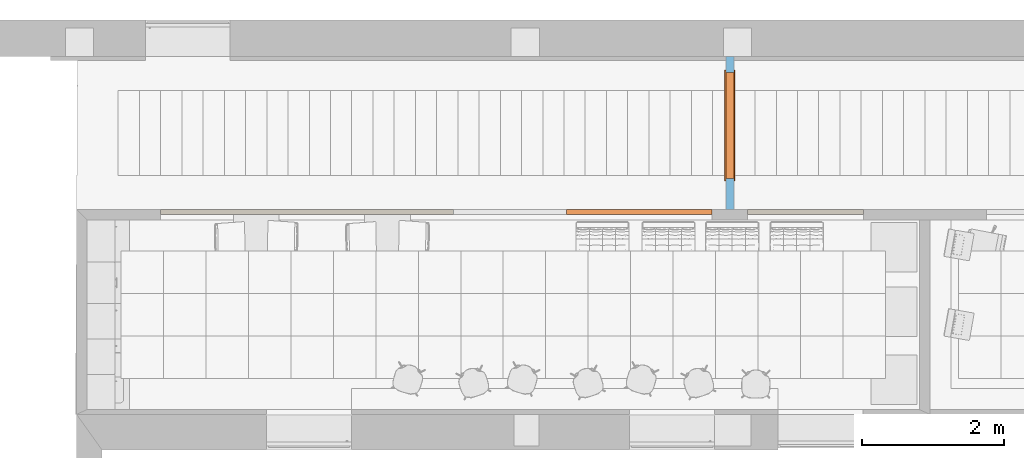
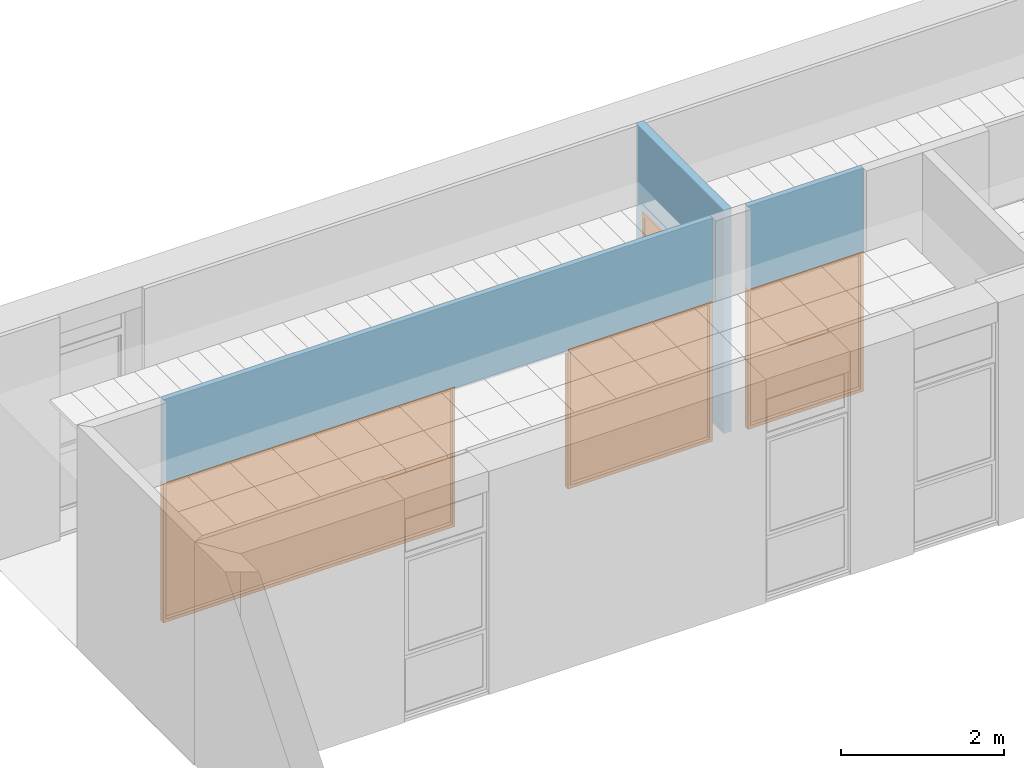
# One storey, part 55 of 68: 4 proxies, 5 openings, plus 3 elements that do not belong to this part.
"""IFC2X3 building model written with IfcOpenShell, lengths in millimetres."""

from ifc_helpers import new_model, entity, si_unit, converted_unit, derived_unit, money_unit, direction, frame, origin_with_axes, origin_2d_with_axis, place, context, subcontext, project, spatial, polyline, rectangle, outline, extrude, faceted_brep, material, layer, layer_set, layer_usage, type_object, element, fill, save


model = new_model("IFC2X3")

# Units and contexts
model_context = context("Model", 3, precision=0.01, world=origin_with_axes(), true_north=direction((0.0, 1.0)))
body_context = subcontext(model_context, "Body", "Model", "MODEL_VIEW")
ifc_project = project(units=[si_unit("LENGTHUNIT", "METRE", prefix="MILLI"), si_unit("AREAUNIT", "SQUARE_METRE"), si_unit("VOLUMEUNIT", "CUBIC_METRE"), converted_unit("PLANEANGLEUNIT", "DEGREE", entity("IfcPlaneAngleMeasure", 0.0174532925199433), si_unit("PLANEANGLEUNIT", "RADIAN"), dimensions=[0, 0, 0, 0, 0, 0, 0]), money_unit("USD"), converted_unit("TIMEUNIT", "Year", entity("IfcTimeMeasure", 31557600.0), si_unit("TIMEUNIT", "SECOND"), dimensions=[0, 0, 1, 0, 0, 0, 0]), si_unit("MASSUNIT", "GRAM", prefix="KILO"), si_unit("THERMODYNAMICTEMPERATUREUNIT", "DEGREE_CELSIUS"), si_unit("LUMINOUSINTENSITYUNIT", "LUMEN"), si_unit("ENERGYUNIT", "JOULE", prefix="MEGA"), derived_unit("THERMALCONDUCTANCEUNIT", [(si_unit("POWERUNIT", "WATT"), 1), (si_unit("LENGTHUNIT", "METRE"), -1), (si_unit("THERMODYNAMICTEMPERATUREUNIT", "KELVIN"), -1)]), derived_unit("SPECIFICHEATCAPACITYUNIT", [(si_unit("ENERGYUNIT", "JOULE"), 1), (si_unit("MASSUNIT", "GRAM", prefix="KILO"), -1), (si_unit("THERMODYNAMICTEMPERATUREUNIT", "KELVIN"), -1)]), derived_unit("MASSDENSITYUNIT", [(si_unit("MASSUNIT", "GRAM", prefix="KILO"), 1), (si_unit("VOLUMEUNIT", "CUBIC_METRE"), -1)])], contexts=[model_context])

# Site, building, storey
site_placement = place(None, origin_with_axes())
site = spatial("IfcSite", under=ifc_project, at=site_placement, Name="Sitio", CompositionType="ELEMENT")
building_placement = place(site_placement, origin_with_axes())
building = spatial("IfcBuilding", under=site, at=building_placement, Name="Construcción", CompositionType="ELEMENT")
storey_placement = place(building_placement, origin_with_axes())
storey = spatial("IfcBuildingStorey", under=building, at=storey_placement, Name="PLANTA 1ª", CompositionType="ELEMENT", Elevation=0.0)

# Wall, openings, proxies
ifc_material_1 = material(Name="Panel de Yeso Laminado")
ifc_layer_1 = layer(ifc_material_1, 5.0, ventilated="UNKNOWN")
ifc_material_2 = material(Name="ARQ_AI033_Aillament_Llana_De_Roca")
ifc_layer_2 = layer(ifc_material_2, 60.0, ventilated="UNKNOWN")
ifc_layer_3 = layer(ifc_material_1, 5.0, ventilated="UNKNOWN")
ifc_layer_set_1 = layer_set([ifc_layer_1, ifc_layer_2, ifc_layer_3], Name="CR- MAMPARA")
ifc_layer_usage_1 = layer_usage(ifc_layer_set_1, "AXIS2", "POSITIVE", 0.0)
wall_type_1 = type_object("IfcWallType", Name="CR- MAMPARA 70", PredefinedType="NOTDEFINED")
wall_1_placement = place(storey_placement, frame((-19071.10900491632, 1700.853055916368, 0.0), z_axis=(0.0, 0.0, 1.0), x_axis=(-1.0, 0.0, 0.0)))
wall_1 = element("IfcWallStandardCase", 1, at=wall_1_placement, inside=storey, type_object=wall_type_1, material=ifc_layer_usage_1, Name="MS-214", context=body_context, shape_type="SweptSolid", body=[
    extrude(outline(polyline([(0.0, 0.0), (7792.385667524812, 0.0), (7792.385667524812, 70.00000000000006), (0.0, 70.00000000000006), (0.0, 0.0)])), origin_with_axes(), (0.0, 0.0, 1.0), 3350.0),
])
opening_1_placement = place(wall_1_placement, frame((1026.534629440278, 0.0, 0.0), z_axis=(0.0, 0.0, 1.0), x_axis=(1.0, 0.0, 0.0)))
opening_1 = element("IfcOpeningElement", 2, at=opening_1_placement, cuts=wall_1, Name="M-04", context=body_context, shape_type="SweptSolid", body=[
    extrude(rectangle(XDim=2053.086487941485, YDim=2100.0, at=origin_2d_with_axis()), frame((0.0, -69.99999999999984, 1050.0), z_axis=(0.0, 1.0, 0.0), x_axis=(-1.0, 0.0, 0.0)), (0.0, 0.0, 1.0), 210.0),
])
opening_2_placement = place(wall_1_placement, frame((5722.731770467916, 0.0, 0.0), z_axis=(0.0, 0.0, 1.0), x_axis=(1.0, 0.0, 0.0)))
opening_2 = element("IfcOpeningElement", 3, at=opening_2_placement, cuts=wall_1, Name="M-03", context=body_context, shape_type="SweptSolid", body=[
    extrude(rectangle(XDim=4139.307794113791, YDim=2100.0, at=origin_2d_with_axis()), frame((0.0, -69.99999999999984, 1050.0), z_axis=(0.0, 1.0, 0.0), x_axis=(-1.0, 0.0, 0.0)), (0.0, 0.0, 1.0), 210.0),
])
opening_3_placement = place(wall_1_placement, frame((2853.077873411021, 0.0, 0.0), z_axis=(0.0, 0.0, 1.0), x_axis=(1.0, 0.0, 0.0)))
element("IfcOpeningElement", 4, at=opening_3_placement, cuts=wall_1, Name="PM-4", context=body_context, shape_type="SweptSolid", body=[
    extrude(rectangle(XDim=1600.000000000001, YDim=2050.0, at=origin_2d_with_axis()), frame((0.0, -69.99999999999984, 1025.0), z_axis=(0.0, 1.0, 0.0), x_axis=(1.0, 0.0, 0.0)), (0.0, 0.0, 1.0), 210.0),
])
building_element_proxy_type_1 = type_object("IfcBuildingElementProxyType", Name="Ventana Escaparate 27", PredefinedType="NOTDEFINED")
proxy_1_placement = place(opening_1_placement, frame((1026.543243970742, 0.0, 0.0), z_axis=(0.0, 0.0, 1.0), x_axis=(-1.0, 0.0, 0.0)))
proxy_1 = element("IfcBuildingElementProxy", 5, at=proxy_1_placement, inside=storey, type_object=building_element_proxy_type_1, Name="M-04", context=body_context, shape_type="Brep", body=[
    faceted_brep([(0.0, 0.0, 2060.0), (0.0, 0.0, 50.0), (0.0, -69.99999999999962, 49.99999999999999), (0.0, -69.99999999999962, 2060.0), (39.99999999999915, 0.0, 2060.0), (39.99999999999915, 0.0, 50.0), (39.99999999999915, -69.99999999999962, 49.99999999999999), (39.99999999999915, -69.99999999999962, 2060.0)], [[[0, 1, 2, 3]], [[0, 4, 5, 1]], [[1, 5, 6, 2]], [[3, 2, 6, 7]], [[4, 0, 3, 7]], [[5, 4, 7, 6]]]),
    faceted_brep([(2053.086487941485, 0.0, 50.0), (2053.086487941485, 0.0, 2060.0), (2053.086487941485, -70.00000000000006, 2060.0), (2053.086487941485, -70.00000000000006, 49.99999999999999), (2013.086487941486, 0.0, 50.0), (2013.086487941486, 0.0, 2060.0), (2013.086487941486, -70.00000000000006, 2060.0), (2013.086487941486, -70.00000000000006, 49.99999999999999)], [[[0, 1, 2, 3]], [[0, 4, 5, 1]], [[1, 5, 6, 2]], [[3, 2, 6, 7]], [[4, 0, 3, 7]], [[5, 4, 7, 6]]]),
    faceted_brep([(2053.086487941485, 0.0, 2100.0), (0.0, 0.0, 2100.0), (0.0, -69.99999999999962, 2100.0), (2053.086487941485, -70.00000000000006, 2100.0), (2053.086487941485, 0.0, 2060.0), (2013.086487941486, 0.0, 2060.0), (39.99999999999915, 0.0, 2060.0), (0.0, 0.0, 2060.0), (0.0, -69.99999999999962, 2060.0), (39.99999999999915, -69.99999999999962, 2060.0), (2013.086487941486, -70.00000000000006, 2060.0), (2053.086487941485, -70.00000000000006, 2060.0)], [[[0, 1, 2, 3]], [[0, 4, 5, 6, 7, 1]], [[1, 7, 8, 2]], [[3, 2, 8, 9, 10, 11]], [[4, 0, 3, 11]], [[5, 4, 11, 10]], [[6, 5, 10, 9]], [[7, 6, 9, 8]]]),
    faceted_brep([(2053.086487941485, 0.0, 50.0), (2013.086487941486, 0.0, 50.0), (2013.086487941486, -70.00000000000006, 49.99999999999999), (2053.086487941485, -70.00000000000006, 49.99999999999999), (2053.086487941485, 0.0, 0.0), (0.0, 0.0, 0.0), (0.0, 0.0, 50.0), (39.99999999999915, 0.0, 50.0), (39.99999999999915, -69.99999999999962, 49.99999999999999), (0.0, -69.99999999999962, 49.99999999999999), (0.0, -69.99999999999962, 0.0), (2053.086487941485, -70.00000000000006, 0.0)], [[[0, 1, 2, 3]], [[0, 4, 5, 6, 7, 1]], [[1, 7, 8, 2]], [[3, 2, 8, 9, 10, 11]], [[4, 0, 3, 11]], [[5, 4, 11, 10]], [[6, 5, 10, 9]], [[7, 6, 9, 8]]]),
    faceted_brep([(39.99999999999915, -9.999999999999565, 50.0), (2013.086487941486, -10.00000000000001, 50.0), (2013.086487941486, -20.00000000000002, 50.0), (39.99999999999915, -19.99999999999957, 50.0), (39.99999999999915, -9.999999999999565, 2060.0), (2013.086487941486, -10.00000000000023, 2060.0), (2013.086487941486, -20.00000000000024, 2060.0), (39.99999999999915, -19.99999999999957, 2060.0)], [[[0, 1, 2, 3]], [[0, 4, 5, 1]], [[1, 5, 6, 2]], [[3, 2, 6, 7]], [[4, 0, 3, 7]], [[5, 4, 7, 6]]]),
])
fill(opening_1, proxy_1)
proxy_2_placement = place(opening_2_placement, frame((2069.653897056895, 0.0, 0.0), z_axis=(0.0, 0.0, 1.0), x_axis=(-1.0, 0.0, 0.0)))
proxy_2 = element("IfcBuildingElementProxy", 6, at=proxy_2_placement, inside=storey, type_object=building_element_proxy_type_1, Name="M-03", context=body_context, shape_type="Brep", body=[
    faceted_brep([(0.0, 0.0, 2060.0), (0.0, 0.0, 50.0), (0.0, -69.99999999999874, 49.99999999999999), (0.0, -69.99999999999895, 2060.0), (39.99999999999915, 0.0, 2060.0), (39.99999999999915, 0.0, 50.0), (39.99999999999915, -69.99999999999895, 49.99999999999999), (39.99999999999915, -69.99999999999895, 2060.0)], [[[0, 1, 2, 3]], [[0, 4, 5, 1]], [[1, 5, 6, 2]], [[3, 2, 6, 7]], [[4, 0, 3, 7]], [[5, 4, 7, 6]]]),
    faceted_brep([(4139.307794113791, 0.0, 50.0), (4139.307794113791, 0.0, 2060.0), (4139.307794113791, -70.00000000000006, 2060.0), (4139.307794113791, -69.99999999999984, 49.99999999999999), (4099.307794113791, 0.0, 50.0), (4099.307794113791, 0.0, 2060.0), (4099.307794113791, -70.00000000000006, 2060.0), (4099.307794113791, -69.99999999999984, 49.99999999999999)], [[[0, 1, 2, 3]], [[0, 4, 5, 1]], [[1, 5, 6, 2]], [[3, 2, 6, 7]], [[4, 0, 3, 7]], [[5, 4, 7, 6]]]),
    faceted_brep([(4139.307794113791, 0.0, 2100.0), (0.0, 0.0, 2100.0), (0.0, -69.99999999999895, 2100.0), (4139.307794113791, -70.00000000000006, 2100.0), (4139.307794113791, 0.0, 2060.0), (4099.307794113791, 0.0, 2060.0), (39.99999999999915, 0.0, 2060.0), (0.0, 0.0, 2060.0), (0.0, -69.99999999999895, 2060.0), (39.99999999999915, -69.99999999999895, 2060.0), (4099.307794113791, -70.00000000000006, 2060.0), (4139.307794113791, -70.00000000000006, 2060.0)], [[[0, 1, 2, 3]], [[0, 4, 5, 6, 7, 1]], [[1, 7, 8, 2]], [[3, 2, 8, 9, 10, 11]], [[4, 0, 3, 11]], [[5, 4, 11, 10]], [[6, 5, 10, 9]], [[7, 6, 9, 8]]]),
    faceted_brep([(4139.307794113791, 0.0, 50.0), (4099.307794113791, 0.0, 50.0), (4099.307794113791, -69.99999999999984, 49.99999999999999), (4139.307794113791, -69.99999999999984, 49.99999999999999), (4139.307794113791, 0.0, 0.0), (0.0, 0.0, 0.0), (0.0, 0.0, 50.0), (39.99999999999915, 0.0, 50.0), (39.99999999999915, -69.99999999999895, 49.99999999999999), (0.0, -69.99999999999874, 49.99999999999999), (0.0, -69.99999999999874, 0.0), (4139.307794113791, -69.99999999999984, 0.0)], [[[0, 1, 2, 3]], [[0, 4, 5, 6, 7, 1]], [[1, 7, 8, 2]], [[3, 2, 8, 9, 10, 11]], [[4, 0, 3, 11]], [[5, 4, 11, 10]], [[6, 5, 10, 9]], [[7, 6, 9, 8]]]),
    faceted_brep([(39.99999999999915, -9.999999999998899, 50.0), (4099.307794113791, -9.999999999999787, 50.0), (4099.307794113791, -19.99999999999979, 50.0), (39.99999999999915, -19.99999999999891, 50.0), (39.99999999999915, -9.999999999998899, 2060.0), (4099.307794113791, -10.00000000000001, 2060.0), (4099.307794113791, -20.00000000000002, 2060.0), (39.99999999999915, -19.99999999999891, 2060.0)], [[[0, 1, 2, 3]], [[0, 4, 5, 1]], [[1, 5, 6, 2]], [[3, 2, 6, 7]], [[4, 0, 3, 7]], [[5, 4, 7, 6]]]),
])
fill(opening_2, proxy_2)

# Wall, opening, proxy
ifc_layer_usage_2 = layer_usage(ifc_layer_set_1, "AXIS2", "POSITIVE", 0.0)
wall_2_placement = place(storey_placement, frame((-16930.05268016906, 1700.853055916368, 0.0), z_axis=(0.0, 0.0, 1.0), x_axis=(-1.0, 0.0, 0.0)))
wall_2 = element("IfcWallStandardCase", 7, at=wall_2_placement, inside=storey, type_object=wall_type_1, material=ifc_layer_usage_2, Name="MS-214", context=body_context, shape_type="SweptSolid", body=[
    extrude(outline(polyline([(0.0, 0.0), (1640.624539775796, 0.0), (1640.624539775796, 70.00000000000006), (0.0, 70.00000000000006), (0.0, 0.0)])), origin_with_axes(), (0.0, 0.0, 1.0), 3350.0),
])
opening_4_placement = place(wall_2_placement, frame((820.3122698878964, 0.0, 0.0), z_axis=(0.0, 0.0, 1.0), x_axis=(1.0, 0.0, 0.0)))
opening_4 = element("IfcOpeningElement", 8, at=opening_4_placement, cuts=wall_2, Name="M-05", context=body_context, shape_type="SweptSolid", body=[
    extrude(rectangle(XDim=1640.624539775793, YDim=2100.0, at=origin_2d_with_axis()), frame((0.0, -69.99999999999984, 1050.0), z_axis=(0.0, 1.0, 0.0), x_axis=(-1.0, 0.0, 0.0)), (0.0, 0.0, 1.0), 210.0),
])
proxy_3_placement = place(opening_4_placement, frame((820.3122698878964, 0.0, 0.0), z_axis=(0.0, 0.0, 1.0), x_axis=(-1.0, 0.0, 0.0)))
proxy_3 = element("IfcBuildingElementProxy", 9, at=proxy_3_placement, inside=storey, type_object=building_element_proxy_type_1, Name="M-05", context=body_context, shape_type="Brep", body=[
    faceted_brep([(0.0, 0.0, 2060.0), (0.0, 0.0, 50.0), (0.0, -69.99999999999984, 49.99999999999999), (0.0, -69.99999999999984, 2060.0), (39.99999999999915, 0.0, 2060.0), (39.99999999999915, 0.0, 50.0), (39.99999999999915, -69.99999999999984, 49.99999999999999), (39.99999999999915, -69.99999999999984, 2060.0)], [[[0, 1, 2, 3]], [[0, 4, 5, 1]], [[1, 5, 6, 2]], [[3, 2, 6, 7]], [[4, 0, 3, 7]], [[5, 4, 7, 6]]]),
    faceted_brep([(1640.624539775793, 0.0, 50.0), (1640.624539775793, 0.0, 2060.0), (1640.624539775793, -70.00000000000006, 2060.0), (1640.624539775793, -70.00000000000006, 49.99999999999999), (1600.624539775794, 0.0, 50.0), (1600.624539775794, 0.0, 2060.0), (1600.624539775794, -70.00000000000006, 2060.0), (1600.624539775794, -70.00000000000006, 49.99999999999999)], [[[0, 1, 2, 3]], [[0, 4, 5, 1]], [[1, 5, 6, 2]], [[3, 2, 6, 7]], [[4, 0, 3, 7]], [[5, 4, 7, 6]]]),
    faceted_brep([(1640.624539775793, 0.0, 2100.0), (0.0, 0.0, 2100.0), (0.0, -69.99999999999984, 2100.0), (1640.624539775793, -70.00000000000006, 2100.0), (1640.624539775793, 0.0, 2060.0), (1600.624539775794, 0.0, 2060.0), (39.99999999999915, 0.0, 2060.0), (0.0, 0.0, 2060.0), (0.0, -69.99999999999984, 2060.0), (39.99999999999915, -69.99999999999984, 2060.0), (1600.624539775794, -70.00000000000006, 2060.0), (1640.624539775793, -70.00000000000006, 2060.0)], [[[0, 1, 2, 3]], [[0, 4, 5, 6, 7, 1]], [[1, 7, 8, 2]], [[3, 2, 8, 9, 10, 11]], [[4, 0, 3, 11]], [[5, 4, 11, 10]], [[6, 5, 10, 9]], [[7, 6, 9, 8]]]),
    faceted_brep([(1640.624539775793, 0.0, 50.0), (1600.624539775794, 0.0, 50.0), (1600.624539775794, -70.00000000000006, 49.99999999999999), (1640.624539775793, -70.00000000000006, 49.99999999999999), (1640.624539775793, 0.0, 0.0), (0.0, 0.0, 0.0), (0.0, 0.0, 50.0), (39.99999999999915, 0.0, 50.0), (39.99999999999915, -69.99999999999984, 49.99999999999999), (0.0, -69.99999999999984, 49.99999999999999), (0.0, -69.99999999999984, 0.0), (1640.624539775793, -70.00000000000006, 0.0)], [[[0, 1, 2, 3]], [[0, 4, 5, 6, 7, 1]], [[1, 7, 8, 2]], [[3, 2, 8, 9, 10, 11]], [[4, 0, 3, 11]], [[5, 4, 11, 10]], [[6, 5, 10, 9]], [[7, 6, 9, 8]]]),
    faceted_brep([(39.99999999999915, -9.999999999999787, 50.0), (1600.624539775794, -10.00000000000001, 50.0), (1600.624539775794, -20.00000000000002, 50.0), (39.99999999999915, -19.99999999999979, 50.0), (39.99999999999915, -10.00000000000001, 2060.0), (1600.624539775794, -10.00000000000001, 2060.0), (1600.624539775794, -20.00000000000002, 2060.0), (39.99999999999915, -20.00000000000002, 2060.0)], [[[0, 1, 2, 3]], [[0, 4, 5, 1]], [[1, 5, 6, 2]], [[3, 2, 6, 7]], [[4, 0, 3, 7]], [[5, 4, 7, 6]]]),
])
fill(opening_4, proxy_3)

ifc_material_3 = material(Name="ARQ_AM246_Arrebossat_De_Guix")
ifc_layer_4 = layer(ifc_material_3, 10.0, ventilated="UNKNOWN")
ifc_material_4 = material(Name="ARQ_CE217_Gero")
ifc_layer_5 = layer(ifc_material_4, 90.0, ventilated="UNKNOWN")
ifc_layer_6 = layer(ifc_material_3, 10.0, ventilated="UNKNOWN")
ifc_layer_set_2 = layer_set([ifc_layer_4, ifc_layer_5, ifc_layer_6], Name="CR Enva Totxana")
ifc_layer_usage_3 = layer_usage(ifc_layer_set_2, "AXIS2", "POSITIVE", 0.0)
wall_type_2 = type_object("IfcWallType", Name="CR Enva Totxana 110", PredefinedType="NOTDEFINED")
wall_3_placement = place(storey_placement, frame((-18761.10900491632, 1700.853055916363, 0.0), z_axis=(0.0, 0.0, 1.0), x_axis=(0.0, 1.0, 0.0)))
wall_3 = element("IfcWallStandardCase", 10, at=wall_3_placement, inside=storey, type_object=wall_type_2, material=ifc_layer_usage_3, Name="MS-203", context=body_context, shape_type="SweptSolid", body=[
    extrude(outline(polyline([(0.0, 0.0), (2162.601130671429, 0.0), (2162.601130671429, 109.9999999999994), (0.0, 109.9999999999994), (0.0, 0.0)])), origin_with_axes(), (0.0, 0.0, 1.0), 3350.0),
])
opening_5_placement = place(wall_3_placement, frame((1186.119170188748, 0.0, 0.0), z_axis=(0.0, 0.0, 1.0), x_axis=(1.0, 0.0, 0.0)))
opening_5 = element("IfcOpeningElement", 11, at=opening_5_placement, cuts=wall_3, Name="PF-15D", context=body_context, shape_type="SweptSolid", body=[
    extrude(rectangle(XDim=1500.0, YDim=2100.0, at=origin_2d_with_axis()), frame((0.0, 109.9999999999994, 1050.0), z_axis=(0.0, 1.0, 0.0), x_axis=(-1.0, 0.0, 0.0)), (0.0, 0.0, -1.0), 329.9999999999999),
    extrude(rectangle(XDim=1574.0, YDim=2137.0, at=origin_2d_with_axis()), frame((0.0, 109.9999999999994, 1068.5), z_axis=(0.0, 1.0, 0.0), x_axis=(-1.0, 0.0, 0.0)), (0.0, 0.0, 1.0), 110.0),
    extrude(rectangle(XDim=1574.0, YDim=2137.0, at=origin_2d_with_axis()), frame((0.0, 0.0, 1068.5), z_axis=(0.0, -1.0, 0.0), x_axis=(-1.0, 0.0, 0.0)), (0.0, 0.0, 1.0), 110.0),
])
building_element_proxy_type_2 = type_object("IfcBuildingElementProxyType", Name="Puerta Doble 27", PredefinedType="NOTDEFINED")
proxy_4_placement = place(opening_5_placement, frame((-750.0, 0.0, 0.0), z_axis=(0.0, 0.0, 1.0), x_axis=(1.0, 0.0, 0.0)))
proxy_4 = element("IfcBuildingElementProxy", 12, at=proxy_4_placement, inside=storey, type_object=building_element_proxy_type_2, Name="PF-15D", context=body_context, shape_type="Brep", body=[
    faceted_brep([(1537.0, 128.9999999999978, 0.0), (1537.0, 109.9999999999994, 0.0), (1487.0, 109.9999999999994, 0.0), (1487.0, 128.9999999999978, 0.0), (1537.0, 128.9999999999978, 2137.0), (1537.0, 109.9999999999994, 2137.0), (1487.0, 109.9999999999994, 2087.0), (1487.0, 128.9999999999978, 2087.0)], [[[0, 1, 2, 3]], [[4, 5, 1, 0]], [[1, 5, 6, 2]], [[3, 2, 6, 7]], [[0, 3, 7, 4]], [[7, 6, 5, 4]]]),
    faceted_brep([(-36.99999999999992, 128.9999999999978, 2137.0), (-36.99999999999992, 109.9999999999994, 2137.0), (12.9999999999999, 109.9999999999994, 2087.0), (12.9999999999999, 128.9999999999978, 2087.0), (-36.99999999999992, 128.9999999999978, 0.0), (-36.99999999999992, 109.9999999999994, 0.0), (12.9999999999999, 109.9999999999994, 0.0), (12.9999999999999, 128.9999999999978, 0.0)], [[[0, 1, 2, 3]], [[4, 5, 1, 0]], [[1, 5, 6, 2]], [[3, 2, 6, 7]], [[0, 3, 7, 4]], [[7, 6, 5, 4]]]),
    faceted_brep([(1537.0, 128.9999999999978, 2137.0), (1537.0, 109.9999999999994, 2137.0), (1487.0, 109.9999999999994, 2087.0), (1487.0, 128.9999999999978, 2087.0), (-36.99999999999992, 128.9999999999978, 2137.0), (-36.99999999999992, 109.9999999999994, 2137.0), (12.9999999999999, 109.9999999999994, 2087.0), (12.9999999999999, 128.9999999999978, 2087.0)], [[[0, 1, 2, 3]], [[4, 5, 1, 0]], [[1, 5, 6, 2]], [[3, 2, 6, 7]], [[0, 3, 7, 4]], [[7, 6, 5, 4]]]),
    faceted_brep([(1537.0, -19.0000000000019, 0.0), (1487.0, -19.0000000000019, 0.0), (1487.0, 0.0, 0.0), (1537.0, 0.0, 0.0), (1537.0, -19.0000000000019, 2137.0), (1487.0, -19.0000000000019, 2087.0), (1487.0, 0.0, 2087.0), (1537.0, 0.0, 2137.0)], [[[0, 1, 2, 3]], [[0, 4, 5, 1]], [[1, 5, 6, 2]], [[3, 2, 6, 7]], [[4, 0, 3, 7]], [[5, 4, 7, 6]]]),
    faceted_brep([(-36.99999999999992, -19.0000000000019, 2137.0), (12.9999999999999, -19.0000000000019, 2087.0), (12.9999999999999, 0.0, 2087.0), (-36.99999999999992, 0.0, 2137.0), (-36.99999999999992, -19.0000000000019, 0.0), (12.9999999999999, -19.0000000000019, 0.0), (12.9999999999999, 0.0, 0.0), (-36.99999999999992, 0.0, 0.0)], [[[0, 1, 2, 3]], [[0, 4, 5, 1]], [[1, 5, 6, 2]], [[3, 2, 6, 7]], [[4, 0, 3, 7]], [[5, 4, 7, 6]]]),
    faceted_brep([(1537.0, -19.0000000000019, 2137.0), (1487.0, -19.0000000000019, 2087.0), (1487.0, 0.0, 2087.0), (1537.0, 0.0, 2137.0), (-36.99999999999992, -19.0000000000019, 2137.0), (12.9999999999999, -19.0000000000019, 2087.0), (12.9999999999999, 0.0, 2087.0), (-36.99999999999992, 0.0, 2137.0)], [[[0, 1, 2, 3]], [[0, 4, 5, 1]], [[1, 5, 6, 2]], [[3, 2, 6, 7]], [[4, 0, 3, 7]], [[5, 4, 7, 6]]]),
    faceted_brep([(1460.0, 74.99999999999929, 0.0), (1460.0, 0.0, 0.0), (1460.0, 0.0, 2060.0), (1460.0, 74.99999999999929, 2060.0), (1472.0, 74.99999999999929, 0.0), (1472.0, 114.9999999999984, 0.0), (1500.0, 114.9999999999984, 0.0), (1500.0, 0.0, 0.0), (1500.0, 0.0, 2060.0), (1472.0, 74.99999999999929, 2060.0), (1500.0, 114.9999999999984, 2060.0), (1472.0, 114.9999999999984, 2060.0)], [[[0, 1, 2, 3]], [[4, 5, 6, 7, 1, 0]], [[1, 7, 8, 2]], [[9, 3, 2, 8, 10, 11]], [[9, 4, 0, 3]], [[11, 5, 4, 9]], [[11, 10, 6, 5]], [[6, 10, 8, 7]]]),
    faceted_brep([(28.00000000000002, 74.99999999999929, 2060.0), (28.00000000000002, 114.9999999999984, 2060.0), (0.0, 114.9999999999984, 2060.0), (0.0, 0.0, 2060.0), (40.00000000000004, 0.0, 2060.0), (40.00000000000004, 74.99999999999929, 2060.0), (28.00000000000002, 74.99999999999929, 0.0), (28.00000000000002, 114.9999999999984, 0.0), (0.0, 114.9999999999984, 0.0), (0.0, 0.0, 0.0), (40.00000000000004, 0.0, 0.0), (40.00000000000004, 74.99999999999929, 0.0)], [[[0, 1, 2, 3, 4, 5]], [[0, 6, 7, 1]], [[7, 8, 2, 1]], [[2, 8, 9, 3]], [[3, 9, 10, 4]], [[5, 4, 10, 11]], [[5, 11, 6, 0]], [[6, 11, 10, 9, 8, 7]]]),
    faceted_brep([(1472.0, 114.9999999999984, 2072.0), (28.00000000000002, 114.9999999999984, 2072.0), (28.00000000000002, 114.9999999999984, 2060.0), (0.0, 114.9999999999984, 2060.0), (0.0, 114.9999999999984, 2100.0), (1500.0, 114.9999999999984, 2100.0), (1500.0, 114.9999999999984, 2060.0), (1472.0, 114.9999999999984, 2060.0), (1472.0, 74.99999999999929, 2072.0), (28.00000000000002, 74.99999999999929, 2072.0), (28.00000000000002, 74.99999999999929, 2060.0), (40.00000000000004, 74.99999999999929, 2060.0), (40.00000000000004, 0.0, 2060.0), (0.0, 0.0, 2060.0), (0.0, 0.0, 2100.0), (1500.0, 0.0, 2100.0), (1500.0, 0.0, 2060.0), (1472.0, 74.99999999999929, 2060.0), (1460.0, 0.0, 2060.0), (1460.0, 74.99999999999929, 2060.0)], [[[0, 1, 2, 3, 4, 5, 6, 7]], [[0, 8, 9, 1]], [[1, 9, 10, 2]], [[10, 11, 12, 13, 3, 2]], [[4, 3, 13, 14]], [[5, 4, 14, 15]], [[6, 5, 15, 16]], [[17, 7, 6, 16, 18, 19]], [[7, 17, 8, 0]], [[10, 9, 8, 17, 19, 11]], [[19, 18, 12, 11]], [[12, 18, 16, 15, 14, 13]]]),
    faceted_brep([(28.00000000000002, 114.9999999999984, 0.0), (750.0, 114.9999999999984, 0.0), (750.0, 74.99999999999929, 0.0), (28.00000000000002, 74.99999999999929, 0.0), (28.00000000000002, 114.9999999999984, 2072.0), (750.0, 114.9999999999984, 2072.0), (750.0, 74.99999999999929, 2072.0), (28.00000000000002, 74.99999999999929, 2072.0)], [[[0, 1, 2, 3]], [[0, 4, 5, 1]], [[1, 5, 6, 2]], [[3, 2, 6, 7]], [[4, 0, 3, 7]], [[5, 4, 7, 6]]]),
    faceted_brep([(1472.0, 114.9999999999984, 0.0), (1472.0, 74.99999999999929, 0.0), (750.0, 74.99999999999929, 0.0), (750.0, 114.9999999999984, 0.0), (1472.0, 114.9999999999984, 2072.0), (1472.0, 74.99999999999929, 2072.0), (750.0, 74.99999999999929, 2072.0), (750.0, 114.9999999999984, 2072.0)], [[[0, 1, 2, 3]], [[4, 5, 1, 0]], [[1, 5, 6, 2]], [[3, 2, 6, 7]], [[0, 3, 7, 4]], [[7, 6, 5, 4]]]),
])
fill(opening_5, proxy_4)

save(model, "model.ifc")
